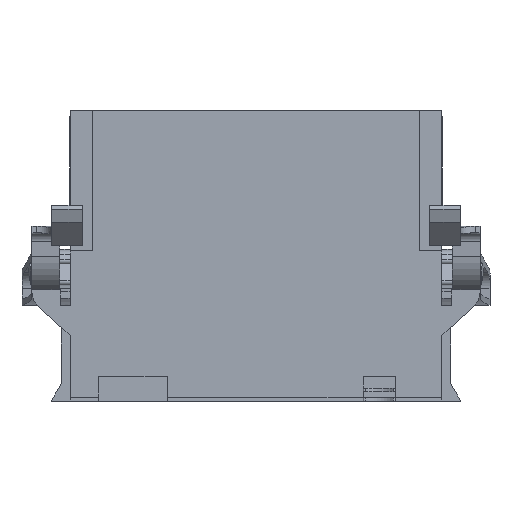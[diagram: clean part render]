
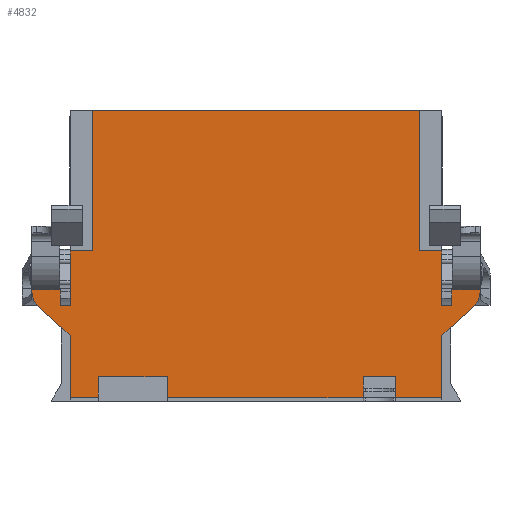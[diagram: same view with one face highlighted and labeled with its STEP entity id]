
A CAD part, top view. The second image highlights one B-rep face of the part: STEP entity #4832.
In plain terms, the highlighted planar face has unit normal (0, 0, 1).
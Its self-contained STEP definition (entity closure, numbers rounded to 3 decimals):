
#160=CIRCLE('',#5150,8.57);
#161=CIRCLE('',#5151,8.57);
#286=FACE_OUTER_BOUND('',#539,.T.);
#539=EDGE_LOOP('',(#3337,#3338,#3339,#3340,#3341,#3342,#3343,#3344,#3345,
#3346,#3347,#3348,#3349,#3350,#3351,#3352,#3353,#3354,#3355,#3356,#3357,
#3358,#3359,#3360,#3361,#3362,#3363,#3364,#3365,#3366,#3367,#3368));
#744=LINE('',#6720,#1292);
#756=LINE('',#6753,#1304);
#909=LINE('',#7142,#1457);
#920=LINE('',#7162,#1468);
#941=LINE('',#7216,#1489);
#961=LINE('',#7262,#1509);
#972=LINE('',#7283,#1520);
#975=LINE('',#7293,#1523);
#976=LINE('',#7295,#1524);
#977=LINE('',#7297,#1525);
#978=LINE('',#7299,#1526);
#979=LINE('',#7301,#1527);
#980=LINE('',#7302,#1528);
#981=LINE('',#7304,#1529);
#982=LINE('',#7306,#1530);
#983=LINE('',#7307,#1531);
#984=LINE('',#7309,#1532);
#985=LINE('',#7311,#1533);
#986=LINE('',#7313,#1534);
#987=LINE('',#7315,#1535);
#988=LINE('',#7317,#1536);
#989=LINE('',#7320,#1537);
#990=LINE('',#7322,#1538);
#991=LINE('',#7323,#1539);
#992=LINE('',#7325,#1540);
#993=LINE('',#7327,#1541);
#994=LINE('',#7328,#1542);
#995=LINE('',#7330,#1543);
#996=LINE('',#7332,#1544);
#997=LINE('',#7333,#1545);
#1292=VECTOR('',#5422,1.);
#1304=VECTOR('',#5446,1.);
#1457=VECTOR('',#5761,1.);
#1468=VECTOR('',#5772,1.);
#1489=VECTOR('',#5813,1.);
#1509=VECTOR('',#5843,1.);
#1520=VECTOR('',#5858,1.);
#1523=VECTOR('',#5867,1.);
#1524=VECTOR('',#5868,1.);
#1525=VECTOR('',#5869,1.);
#1526=VECTOR('',#5870,1.);
#1527=VECTOR('',#5871,10.);
#1528=VECTOR('',#5872,1.);
#1529=VECTOR('',#5873,1.);
#1530=VECTOR('',#5874,1.);
#1531=VECTOR('',#5875,1.);
#1532=VECTOR('',#5876,10.);
#1533=VECTOR('',#5877,1.);
#1534=VECTOR('',#5878,1.);
#1535=VECTOR('',#5879,1.);
#1536=VECTOR('',#5880,1.);
#1537=VECTOR('',#5883,10.);
#1538=VECTOR('',#5884,1.);
#1539=VECTOR('',#5885,1.);
#1540=VECTOR('',#5886,1.);
#1541=VECTOR('',#5887,1.);
#1542=VECTOR('',#5888,1.);
#1543=VECTOR('',#5889,1.);
#1544=VECTOR('',#5890,1.);
#1545=VECTOR('',#5891,10.);
#1840=VERTEX_POINT('',#6717);
#1841=VERTEX_POINT('',#6719);
#1855=VERTEX_POINT('',#6750);
#1856=VERTEX_POINT('',#6752);
#2011=VERTEX_POINT('',#7141);
#2019=VERTEX_POINT('',#7159);
#2020=VERTEX_POINT('',#7161);
#2042=VERTEX_POINT('',#7213);
#2043=VERTEX_POINT('',#7215);
#2063=VERTEX_POINT('',#7259);
#2064=VERTEX_POINT('',#7261);
#2072=VERTEX_POINT('',#7281);
#2074=VERTEX_POINT('',#7289);
#2075=VERTEX_POINT('',#7290);
#2076=VERTEX_POINT('',#7292);
#2077=VERTEX_POINT('',#7294);
#2078=VERTEX_POINT('',#7296);
#2079=VERTEX_POINT('',#7298);
#2080=VERTEX_POINT('',#7300);
#2081=VERTEX_POINT('',#7303);
#2082=VERTEX_POINT('',#7305);
#2083=VERTEX_POINT('',#7308);
#2084=VERTEX_POINT('',#7310);
#2085=VERTEX_POINT('',#7312);
#2086=VERTEX_POINT('',#7314);
#2087=VERTEX_POINT('',#7316);
#2088=VERTEX_POINT('',#7318);
#2089=VERTEX_POINT('',#7321);
#2090=VERTEX_POINT('',#7324);
#2091=VERTEX_POINT('',#7326);
#2092=VERTEX_POINT('',#7329);
#2093=VERTEX_POINT('',#7331);
#2296=EDGE_CURVE('',#1840,#1841,#744,.F.);
#2311=EDGE_CURVE('',#1855,#1856,#756,.F.);
#2503=EDGE_CURVE('',#2011,#1840,#909,.T.);
#2514=EDGE_CURVE('',#2019,#2020,#920,.T.);
#2542=EDGE_CURVE('',#2043,#2042,#941,.T.);
#2564=EDGE_CURVE('',#2064,#2063,#961,.T.);
#2575=EDGE_CURVE('',#2072,#2019,#972,.T.);
#2578=EDGE_CURVE('',#2074,#2075,#160,.F.);
#2579=EDGE_CURVE('',#2075,#2076,#975,.T.);
#2580=EDGE_CURVE('',#2076,#2077,#976,.T.);
#2581=EDGE_CURVE('',#2077,#2078,#977,.T.);
#2582=EDGE_CURVE('',#2078,#2079,#978,.F.);
#2583=EDGE_CURVE('',#2079,#2080,#979,.F.);
#2584=EDGE_CURVE('',#2080,#1856,#980,.T.);
#2585=EDGE_CURVE('',#2081,#1855,#981,.F.);
#2586=EDGE_CURVE('',#2082,#2081,#982,.F.);
#2587=EDGE_CURVE('',#2082,#1841,#983,.F.);
#2588=EDGE_CURVE('',#2083,#2011,#984,.F.);
#2589=EDGE_CURVE('',#2084,#2083,#985,.F.);
#2590=EDGE_CURVE('',#2085,#2084,#986,.F.);
#2591=EDGE_CURVE('',#2086,#2085,#987,.F.);
#2592=EDGE_CURVE('',#2087,#2086,#988,.T.);
#2593=EDGE_CURVE('',#2088,#2087,#161,.T.);
#2594=EDGE_CURVE('',#2020,#2088,#989,.F.);
#2595=EDGE_CURVE('',#2089,#2072,#990,.F.);
#2596=EDGE_CURVE('',#2089,#2064,#991,.F.);
#2597=EDGE_CURVE('',#2090,#2063,#992,.T.);
#2598=EDGE_CURVE('',#2091,#2090,#993,.F.);
#2599=EDGE_CURVE('',#2091,#2043,#994,.F.);
#2600=EDGE_CURVE('',#2092,#2042,#995,.T.);
#2601=EDGE_CURVE('',#2092,#2093,#996,.T.);
#2602=EDGE_CURVE('',#2093,#2074,#997,.F.);
#3337=ORIENTED_EDGE('',*,*,#2578,.T.);
#3338=ORIENTED_EDGE('',*,*,#2579,.T.);
#3339=ORIENTED_EDGE('',*,*,#2580,.T.);
#3340=ORIENTED_EDGE('',*,*,#2581,.T.);
#3341=ORIENTED_EDGE('',*,*,#2582,.T.);
#3342=ORIENTED_EDGE('',*,*,#2583,.T.);
#3343=ORIENTED_EDGE('',*,*,#2584,.T.);
#3344=ORIENTED_EDGE('',*,*,#2311,.F.);
#3345=ORIENTED_EDGE('',*,*,#2585,.F.);
#3346=ORIENTED_EDGE('',*,*,#2586,.F.);
#3347=ORIENTED_EDGE('',*,*,#2587,.T.);
#3348=ORIENTED_EDGE('',*,*,#2296,.F.);
#3349=ORIENTED_EDGE('',*,*,#2503,.F.);
#3350=ORIENTED_EDGE('',*,*,#2588,.F.);
#3351=ORIENTED_EDGE('',*,*,#2589,.F.);
#3352=ORIENTED_EDGE('',*,*,#2590,.F.);
#3353=ORIENTED_EDGE('',*,*,#2591,.F.);
#3354=ORIENTED_EDGE('',*,*,#2592,.F.);
#3355=ORIENTED_EDGE('',*,*,#2593,.F.);
#3356=ORIENTED_EDGE('',*,*,#2594,.F.);
#3357=ORIENTED_EDGE('',*,*,#2514,.F.);
#3358=ORIENTED_EDGE('',*,*,#2575,.F.);
#3359=ORIENTED_EDGE('',*,*,#2595,.F.);
#3360=ORIENTED_EDGE('',*,*,#2596,.T.);
#3361=ORIENTED_EDGE('',*,*,#2564,.T.);
#3362=ORIENTED_EDGE('',*,*,#2597,.F.);
#3363=ORIENTED_EDGE('',*,*,#2598,.F.);
#3364=ORIENTED_EDGE('',*,*,#2599,.T.);
#3365=ORIENTED_EDGE('',*,*,#2542,.T.);
#3366=ORIENTED_EDGE('',*,*,#2600,.F.);
#3367=ORIENTED_EDGE('',*,*,#2601,.T.);
#3368=ORIENTED_EDGE('',*,*,#2602,.T.);
#4394=PLANE('',#5149);
#4832=ADVANCED_FACE('',(#286),#4394,.F.);
#5149=AXIS2_PLACEMENT_3D('',#7288,#5863,#5864);
#5150=AXIS2_PLACEMENT_3D('',#7291,#5865,#5866);
#5151=AXIS2_PLACEMENT_3D('',#7319,#5881,#5882);
#5422=DIRECTION('',(-1.,0.,0.));
#5446=DIRECTION('',(-1.,0.,0.));
#5761=DIRECTION('',(0.,1.,0.));
#5772=DIRECTION('',(0.,1.,0.));
#5813=DIRECTION('',(0.,-1.,0.));
#5843=DIRECTION('',(0.,-1.,0.));
#5858=DIRECTION('',(-1.,0.,0.));
#5863=DIRECTION('center_axis',(0.,0.,-1.));
#5864=DIRECTION('ref_axis',(-1.,0.,0.));
#5865=DIRECTION('center_axis',(0.,0.,-1.));
#5866=DIRECTION('ref_axis',(0.674,-0.739,0.));
#5867=DIRECTION('',(0.,1.,0.));
#5868=DIRECTION('',(-1.,0.,0.));
#5869=DIRECTION('',(-1.,0.,0.));
#5870=DIRECTION('',(0.,1.,0.));
#5871=DIRECTION('',(0.998,0.07,0.));
#5872=DIRECTION('',(0.,1.,0.));
#5873=DIRECTION('',(0.,1.,0.));
#5874=DIRECTION('',(-1.,0.,0.));
#5875=DIRECTION('',(0.,1.,0.));
#5876=DIRECTION('',(-0.998,0.07,0.));
#5877=DIRECTION('',(0.,1.,0.));
#5878=DIRECTION('',(-1.,0.,0.));
#5879=DIRECTION('',(-1.,0.,0.));
#5880=DIRECTION('',(0.,1.,0.));
#5881=DIRECTION('center_axis',(0.,0.,-1.));
#5882=DIRECTION('ref_axis',(-1.,0.,0.));
#5883=DIRECTION('',(0.739,-0.674,0.));
#5884=DIRECTION('',(0.,1.,0.));
#5885=DIRECTION('',(-1.,0.,0.));
#5886=DIRECTION('',(-1.,0.,0.));
#5887=DIRECTION('',(0.,1.,0.));
#5888=DIRECTION('',(-1.,0.,0.));
#5889=DIRECTION('',(-1.,0.,0.));
#5890=DIRECTION('',(0.,1.,0.));
#5891=DIRECTION('',(-0.739,-0.674,0.));
#6717=CARTESIAN_POINT('',(-75.5,61.,45.5));
#6719=CARTESIAN_POINT('',(-66.5,61.,45.5));
#6720=CARTESIAN_POINT('',(0.,61.,45.5));
#6750=CARTESIAN_POINT('',(66.5,61.,45.5));
#6752=CARTESIAN_POINT('',(75.5,61.,45.5));
#6753=CARTESIAN_POINT('',(0.,61.,45.5));
#7141=CARTESIAN_POINT('',(-75.5,38.693,45.5));
#7142=CARTESIAN_POINT('',(-75.5,59.,45.5));
#7159=CARTESIAN_POINT('',(-75.5,1.5,45.5));
#7161=CARTESIAN_POINT('',(-75.5,26.782,45.5));
#7162=CARTESIAN_POINT('',(-75.5,59.,45.5));
#7213=CARTESIAN_POINT('',(56.5,1.5,45.5));
#7215=CARTESIAN_POINT('',(56.5,6.,45.5));
#7216=CARTESIAN_POINT('',(56.5,3.75,45.5));
#7259=CARTESIAN_POINT('',(-36.,1.5,45.5));
#7261=CARTESIAN_POINT('',(-36.,6.,45.5));
#7262=CARTESIAN_POINT('',(-36.,3.75,45.5));
#7281=CARTESIAN_POINT('',(-64.,1.5,45.5));
#7283=CARTESIAN_POINT('',(-69.75,1.5,45.5));
#7288=CARTESIAN_POINT('Origin',(0.,0.,
45.5));
#7289=CARTESIAN_POINT('',(88.205,38.367,45.5));
#7290=CARTESIAN_POINT('',(91.,44.7,45.5));
#7291=CARTESIAN_POINT('Origin',(82.43,44.7,45.5));
#7292=CARTESIAN_POINT('',(91.,45.2,45.5));
#7293=CARTESIAN_POINT('',(91.,59.75,45.5));
#7294=CARTESIAN_POINT('',(82.,45.2,45.5));
#7295=CARTESIAN_POINT('',(0.,45.2,45.5));
#7296=CARTESIAN_POINT('',(79.5,45.2,45.5));
#7297=CARTESIAN_POINT('',(0.,45.2,45.5));
#7298=CARTESIAN_POINT('',(79.5,38.972,45.5));
#7299=CARTESIAN_POINT('',(79.5,59.75,45.5));
#7300=CARTESIAN_POINT('',(75.5,38.693,45.5));
#7301=CARTESIAN_POINT('',(75.5,38.693,45.5));
#7302=CARTESIAN_POINT('',(75.5,59.75,45.5));
#7303=CARTESIAN_POINT('',(66.5,118.,45.5));
#7304=CARTESIAN_POINT('',(66.5,59.75,45.5));
#7305=CARTESIAN_POINT('',(-66.5,118.,45.5));
#7306=CARTESIAN_POINT('',(0.,118.,45.5));
#7307=CARTESIAN_POINT('',(-66.5,59.75,45.5));
#7308=CARTESIAN_POINT('',(-79.5,38.972,45.5));
#7309=CARTESIAN_POINT('',(-75.5,38.693,45.5));
#7310=CARTESIAN_POINT('',(-79.5,45.2,45.5));
#7311=CARTESIAN_POINT('',(-79.5,59.75,45.5));
#7312=CARTESIAN_POINT('',(-82.,45.2,45.5));
#7313=CARTESIAN_POINT('',(0.,45.2,45.5));
#7314=CARTESIAN_POINT('',(-91.,45.2,45.5));
#7315=CARTESIAN_POINT('',(0.,45.2,45.5));
#7316=CARTESIAN_POINT('',(-91.,44.7,45.5));
#7317=CARTESIAN_POINT('',(-91.,59.75,45.5));
#7318=CARTESIAN_POINT('',(-88.205,38.367,45.5));
#7319=CARTESIAN_POINT('Origin',(-82.43,44.7,45.5));
#7320=CARTESIAN_POINT('',(-88.205,38.367,45.5));
#7321=CARTESIAN_POINT('',(-64.,6.,45.5));
#7322=CARTESIAN_POINT('',(-64.,59.75,45.5));
#7323=CARTESIAN_POINT('',(0.,6.,45.5));
#7324=CARTESIAN_POINT('',(43.5,1.5,45.5));
#7325=CARTESIAN_POINT('',(0.,1.5,45.5));
#7326=CARTESIAN_POINT('',(43.5,6.,45.5));
#7327=CARTESIAN_POINT('',(43.5,59.75,45.5));
#7328=CARTESIAN_POINT('',(0.,6.,45.5));
#7329=CARTESIAN_POINT('',(75.5,1.5,45.5));
#7330=CARTESIAN_POINT('',(0.,1.5,45.5));
#7331=CARTESIAN_POINT('',(75.5,26.782,45.5));
#7332=CARTESIAN_POINT('',(75.5,59.75,45.5));
#7333=CARTESIAN_POINT('',(88.205,38.367,45.5));
